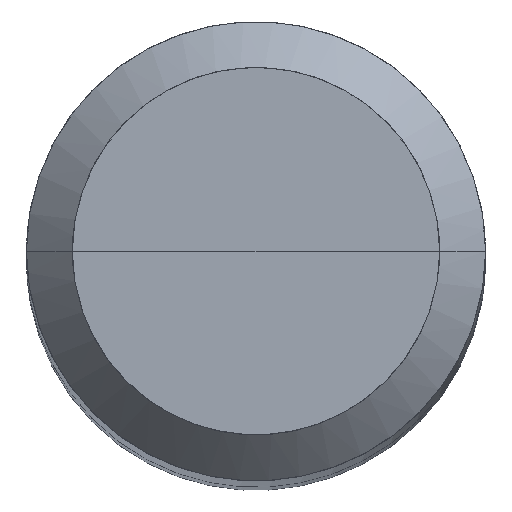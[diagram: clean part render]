
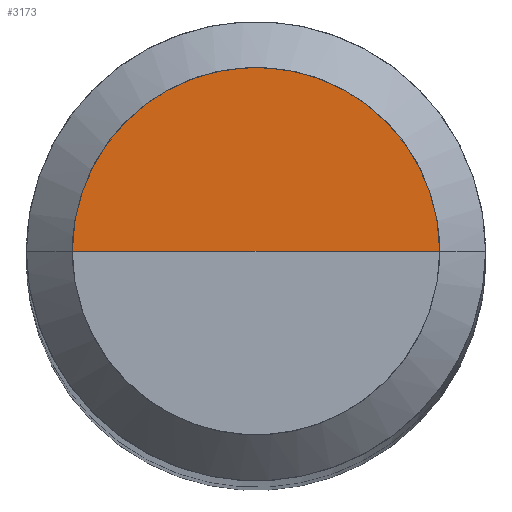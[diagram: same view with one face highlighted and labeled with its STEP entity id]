
A CAD part, top view. The second image highlights one B-rep face of the part: STEP entity #3173.
In plain terms, the highlighted free-form (B-spline) face has degree [1, 2] with [2, 5] control points.
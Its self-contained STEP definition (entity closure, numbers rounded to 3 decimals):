
#2975=CARTESIAN_POINT('',(6.4,0.0,125.0));
#2976=CARTESIAN_POINT('',(6.4,6.4,125.0));
#2977=CARTESIAN_POINT('',(0.0,6.4,125.0));
#2978=CARTESIAN_POINT('',(-6.4,6.4,125.0));
#2979=CARTESIAN_POINT('',(-6.4,0.0,125.0));
#2980=CARTESIAN_POINT('',(0.0,0.0,125.0));
#3158=(
BOUNDED_SURFACE()
B_SPLINE_SURFACE(1,2,(
(#2975,#2976,#2977,#2978,#2979),
(#2980,#2980,#2980,#2980,#2980)
), .UNSPECIFIED.,.F.,.F.,.F.)
B_SPLINE_SURFACE_WITH_KNOTS((2,2),(3,2,3),(
0.0,1.0),(
0.0,0.5,1.0), .UNSPECIFIED.)
GEOMETRIC_REPRESENTATION_ITEM()
RATIONAL_B_SPLINE_SURFACE(((1.0,0.707,1.0,0.707,1.0),
(1.0,0.707,1.0,0.707,1.0)
))
REPRESENTATION_ITEM('')
SURFACE()
);
#3159=(
BOUNDED_CURVE()
B_SPLINE_CURVE(2,(#2979,#2978,#2977,#2976,#2975),.UNSPECIFIED.,.F.,.F.)
B_SPLINE_CURVE_WITH_KNOTS((3,2,3),
(0.0,0.5,1.0),.UNSPECIFIED.)
CURVE()
GEOMETRIC_REPRESENTATION_ITEM()
RATIONAL_B_SPLINE_CURVE((1.0,0.707,1.0,0.707,1.0))
REPRESENTATION_ITEM('')
);
#3160=(
BOUNDED_CURVE()
B_SPLINE_CURVE(1,(#2975,#2980),.UNSPECIFIED.,.F.,.F.)
B_SPLINE_CURVE_WITH_KNOTS((2,2),
(0.0,1.0),.UNSPECIFIED.)
CURVE()
GEOMETRIC_REPRESENTATION_ITEM()
RATIONAL_B_SPLINE_CURVE((1.0,1.0))
REPRESENTATION_ITEM('')
);
#3161=(
BOUNDED_CURVE()
B_SPLINE_CURVE(1,(#2980,#2979),.UNSPECIFIED.,.F.,.F.)
B_SPLINE_CURVE_WITH_KNOTS((2,2),
(0.0,1.0),.UNSPECIFIED.)
CURVE()
GEOMETRIC_REPRESENTATION_ITEM()
RATIONAL_B_SPLINE_CURVE((1.0,1.0))
REPRESENTATION_ITEM('')
);
#3162=VERTEX_POINT('',#2975);
#3163=VERTEX_POINT('',#2979);
#3164=VERTEX_POINT('',#2980);
#3165=EDGE_CURVE('',#3163,#3162,#3159,.T.);
#3166=EDGE_CURVE('',#3162,#3164,#3160,.T.);
#3167=EDGE_CURVE('',#3164,#3163,#3161,.T.);
#3168=ORIENTED_EDGE('',*,*,#3165,.T.);
#3169=ORIENTED_EDGE('',*,*,#3166,.T.);
#3170=ORIENTED_EDGE('',*,*,#3167,.T.);
#3171=EDGE_LOOP('',(#3168,#3169,#3170));
#3172=FACE_OUTER_BOUND('',#3171,.T.);
#3173=ADVANCED_FACE('',(#3172),#3158,.T.);
